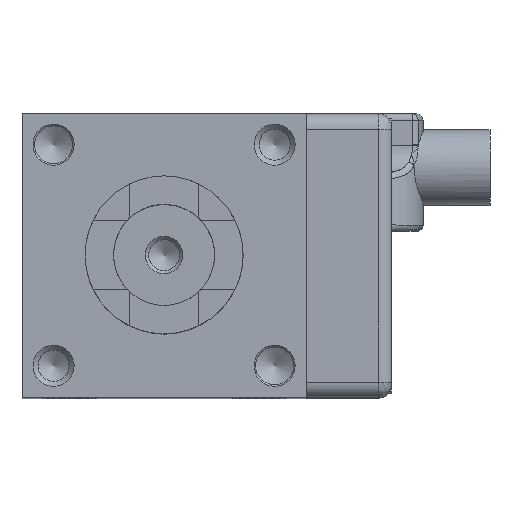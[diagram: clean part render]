
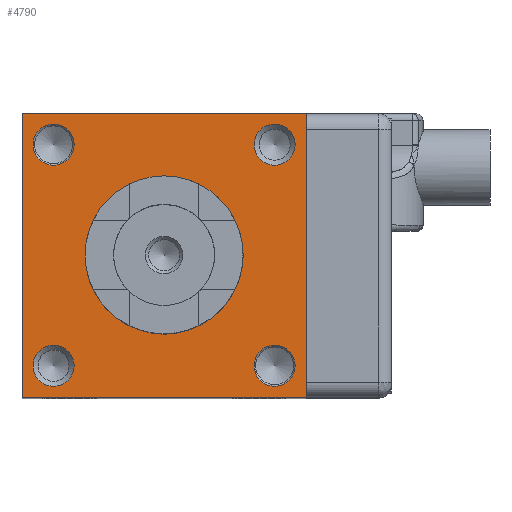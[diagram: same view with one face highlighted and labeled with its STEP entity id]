
A CAD part, top view. The second image highlights one B-rep face of the part: STEP entity #4790.
In plain terms, the highlighted planar face has unit normal (0, 0, 1).
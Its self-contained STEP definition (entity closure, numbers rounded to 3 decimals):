
#186=FACE_BOUND('',#1000,.T.);
#187=FACE_BOUND('',#1001,.T.);
#188=FACE_BOUND('',#1002,.T.);
#189=FACE_BOUND('',#1003,.T.);
#190=FACE_BOUND('',#1004,.T.);
#261=CIRCLE('',#5154,8.);
#262=CIRCLE('',#5155,8.);
#267=CIRCLE('',#5163,3.25);
#268=CIRCLE('',#5164,3.25);
#273=CIRCLE('',#5172,3.25);
#274=CIRCLE('',#5173,3.25);
#279=CIRCLE('',#5181,3.25);
#280=CIRCLE('',#5182,3.25);
#285=CIRCLE('',#5190,3.25);
#286=CIRCLE('',#5191,3.25);
#700=FACE_OUTER_BOUND('',#999,.T.);
#999=EDGE_LOOP('',(#3628,#3629,#3630,#3631));
#1000=EDGE_LOOP('',(#3632,#3633));
#1001=EDGE_LOOP('',(#3634,#3635));
#1002=EDGE_LOOP('',(#3636,#3637));
#1003=EDGE_LOOP('',(#3638,#3639));
#1004=EDGE_LOOP('',(#3640,#3641));
#1328=LINE('',#7652,#1691);
#1330=LINE('',#7656,#1693);
#1332=LINE('',#7660,#1695);
#1334=LINE('',#7663,#1697);
#1691=VECTOR('',#6199,10.);
#1693=VECTOR('',#6203,10.);
#1695=VECTOR('',#6207,10.);
#1697=VECTOR('',#6211,10.);
#2010=VERTEX_POINT('',#7325);
#2011=VERTEX_POINT('',#7326);
#2017=VERTEX_POINT('',#7343);
#2018=VERTEX_POINT('',#7344);
#2024=VERTEX_POINT('',#7362);
#2025=VERTEX_POINT('',#7363);
#2031=VERTEX_POINT('',#7381);
#2032=VERTEX_POINT('',#7382);
#2038=VERTEX_POINT('',#7400);
#2039=VERTEX_POINT('',#7401);
#2130=VERTEX_POINT('',#7649);
#2131=VERTEX_POINT('',#7651);
#2132=VERTEX_POINT('',#7655);
#2133=VERTEX_POINT('',#7659);
#2526=EDGE_CURVE('',#2010,#2011,#261,.T.);
#2527=EDGE_CURVE('',#2011,#2010,#262,.T.);
#2534=EDGE_CURVE('',#2017,#2018,#267,.T.);
#2535=EDGE_CURVE('',#2018,#2017,#268,.T.);
#2543=EDGE_CURVE('',#2024,#2025,#273,.T.);
#2544=EDGE_CURVE('',#2025,#2024,#274,.T.);
#2552=EDGE_CURVE('',#2031,#2032,#279,.T.);
#2553=EDGE_CURVE('',#2032,#2031,#280,.T.);
#2561=EDGE_CURVE('',#2038,#2039,#285,.T.);
#2562=EDGE_CURVE('',#2039,#2038,#286,.T.);
#2680=EDGE_CURVE('',#2131,#2130,#1328,.T.);
#2682=EDGE_CURVE('',#2132,#2131,#1330,.T.);
#2684=EDGE_CURVE('',#2133,#2132,#1332,.T.);
#2686=EDGE_CURVE('',#2130,#2133,#1334,.T.);
#3628=ORIENTED_EDGE('',*,*,#2686,.T.);
#3629=ORIENTED_EDGE('',*,*,#2684,.T.);
#3630=ORIENTED_EDGE('',*,*,#2682,.T.);
#3631=ORIENTED_EDGE('',*,*,#2680,.T.);
#3632=ORIENTED_EDGE('',*,*,#2526,.T.);
#3633=ORIENTED_EDGE('',*,*,#2527,.T.);
#3634=ORIENTED_EDGE('',*,*,#2534,.T.);
#3635=ORIENTED_EDGE('',*,*,#2535,.T.);
#3636=ORIENTED_EDGE('',*,*,#2543,.T.);
#3637=ORIENTED_EDGE('',*,*,#2544,.T.);
#3638=ORIENTED_EDGE('',*,*,#2552,.T.);
#3639=ORIENTED_EDGE('',*,*,#2553,.T.);
#3640=ORIENTED_EDGE('',*,*,#2561,.T.);
#3641=ORIENTED_EDGE('',*,*,#2562,.T.);
#4600=PLANE('',#5308);
#4790=ADVANCED_FACE('',(#700,#186,#187,#188,#189,#190),#4600,.T.);
#5154=AXIS2_PLACEMENT_3D('',#7327,#5843,#5844);
#5155=AXIS2_PLACEMENT_3D('',#7328,#5845,#5846);
#5163=AXIS2_PLACEMENT_3D('',#7345,#5863,#5864);
#5164=AXIS2_PLACEMENT_3D('',#7346,#5865,#5866);
#5172=AXIS2_PLACEMENT_3D('',#7364,#5884,#5885);
#5173=AXIS2_PLACEMENT_3D('',#7365,#5886,#5887);
#5181=AXIS2_PLACEMENT_3D('',#7383,#5905,#5906);
#5182=AXIS2_PLACEMENT_3D('',#7384,#5907,#5908);
#5190=AXIS2_PLACEMENT_3D('',#7402,#5926,#5927);
#5191=AXIS2_PLACEMENT_3D('',#7403,#5928,#5929);
#5308=AXIS2_PLACEMENT_3D('',#7664,#6212,#6213);
#5843=DIRECTION('center_axis',(0.,0.,-1.));
#5844=DIRECTION('ref_axis',(1.,0.,0.));
#5845=DIRECTION('center_axis',(0.,0.,-1.));
#5846=DIRECTION('ref_axis',(1.,0.,0.));
#5863=DIRECTION('center_axis',(0.,0.,-1.));
#5864=DIRECTION('ref_axis',(1.,0.,0.));
#5865=DIRECTION('center_axis',(0.,0.,-1.));
#5866=DIRECTION('ref_axis',(1.,0.,0.));
#5884=DIRECTION('center_axis',(0.,0.,-1.));
#5885=DIRECTION('ref_axis',(1.,0.,0.));
#5886=DIRECTION('center_axis',(0.,0.,-1.));
#5887=DIRECTION('ref_axis',(1.,0.,0.));
#5905=DIRECTION('center_axis',(0.,0.,-1.));
#5906=DIRECTION('ref_axis',(1.,0.,0.));
#5907=DIRECTION('center_axis',(0.,0.,-1.));
#5908=DIRECTION('ref_axis',(1.,0.,0.));
#5926=DIRECTION('center_axis',(0.,0.,-1.));
#5927=DIRECTION('ref_axis',(1.,0.,0.));
#5928=DIRECTION('center_axis',(0.,0.,-1.));
#5929=DIRECTION('ref_axis',(1.,0.,0.));
#6199=DIRECTION('',(0.,-1.,0.));
#6203=DIRECTION('',(-1.,0.,0.));
#6207=DIRECTION('',(0.,1.,0.));
#6211=DIRECTION('',(1.,0.,0.));
#6212=DIRECTION('center_axis',(0.,0.,1.));
#6213=DIRECTION('ref_axis',(1.,0.,0.));
#7325=CARTESIAN_POINT('',(8.,0.,95.));
#7326=CARTESIAN_POINT('',(-8.,0.,95.));
#7327=CARTESIAN_POINT('Origin',(0.,0.,95.));
#7328=CARTESIAN_POINT('Origin',(0.,0.,95.));
#7343=CARTESIAN_POINT('',(-14.25,17.5,95.));
#7344=CARTESIAN_POINT('',(-20.75,17.5,95.));
#7345=CARTESIAN_POINT('Origin',(-17.5,17.5,95.));
#7346=CARTESIAN_POINT('Origin',(-17.5,17.5,95.));
#7362=CARTESIAN_POINT('',(20.75,-17.5,95.));
#7363=CARTESIAN_POINT('',(14.25,-17.5,95.));
#7364=CARTESIAN_POINT('Origin',(17.5,-17.5,95.));
#7365=CARTESIAN_POINT('Origin',(17.5,-17.5,95.));
#7381=CARTESIAN_POINT('',(-14.25,-17.5,95.));
#7382=CARTESIAN_POINT('',(-20.75,-17.5,95.));
#7383=CARTESIAN_POINT('Origin',(-17.5,-17.5,95.));
#7384=CARTESIAN_POINT('Origin',(-17.5,-17.5,95.));
#7400=CARTESIAN_POINT('',(20.75,17.5,95.));
#7401=CARTESIAN_POINT('',(14.25,17.5,95.));
#7402=CARTESIAN_POINT('Origin',(17.5,17.5,95.));
#7403=CARTESIAN_POINT('Origin',(17.5,17.5,95.));
#7649=CARTESIAN_POINT('',(-22.5,-22.5,95.));
#7651=CARTESIAN_POINT('',(-22.5,22.5,95.));
#7652=CARTESIAN_POINT('',(-22.5,22.5,95.));
#7655=CARTESIAN_POINT('',(22.5,22.5,95.));
#7656=CARTESIAN_POINT('',(22.5,22.5,95.));
#7659=CARTESIAN_POINT('',(22.5,-22.5,95.));
#7660=CARTESIAN_POINT('',(22.5,-22.5,95.));
#7663=CARTESIAN_POINT('',(-22.5,-22.5,95.));
#7664=CARTESIAN_POINT('Origin',(0.,0.,95.));
